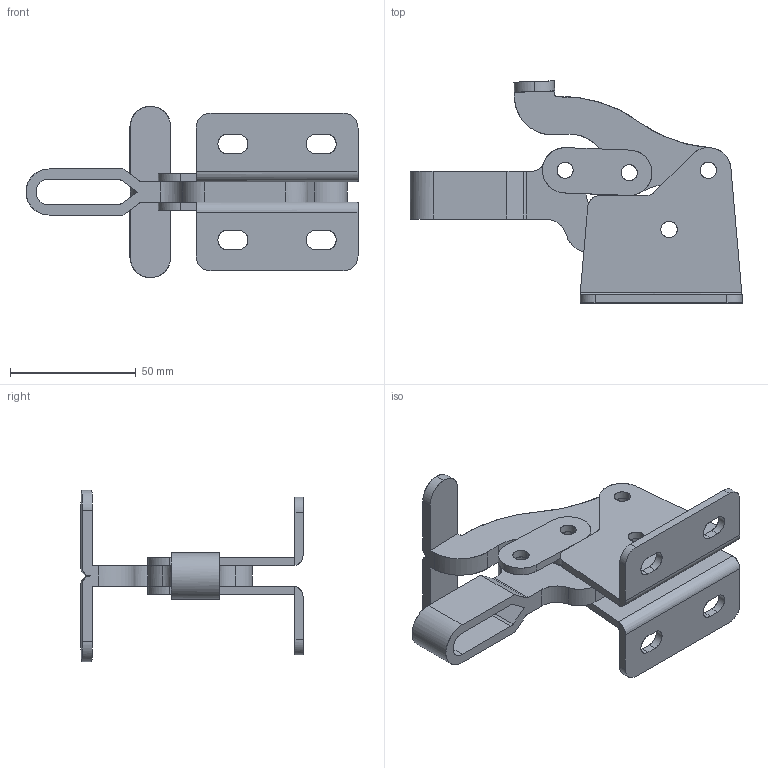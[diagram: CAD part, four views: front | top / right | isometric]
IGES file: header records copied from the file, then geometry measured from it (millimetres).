
Start section: Comment
Global section: file name: 13008.igs; native system:  By Spatial Corp.; preprocessor: XPlus PS/IGES 3.0; author: Author; organization: Title; date: 20050216.173417; units: inch
Bounding box: 131.8 x 88.18 x 68 mm (x, y, z)
Surface area: 39393.5 mm2 (no closed solid volume)
Topology: 0 solids, 0 shells, 145 faces, 798 edges, 798 vertices
Faces by surface type: revolution 81, extrusion 64
